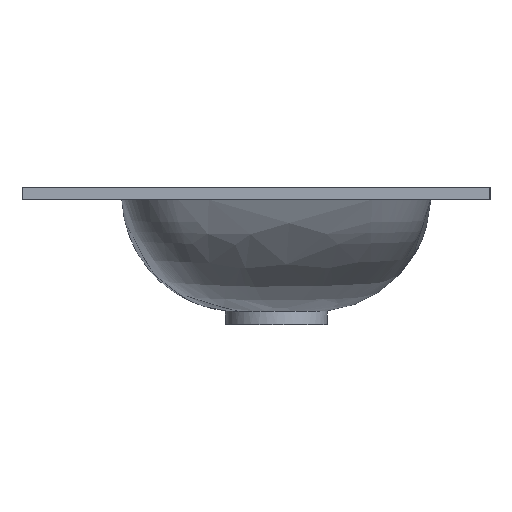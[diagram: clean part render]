
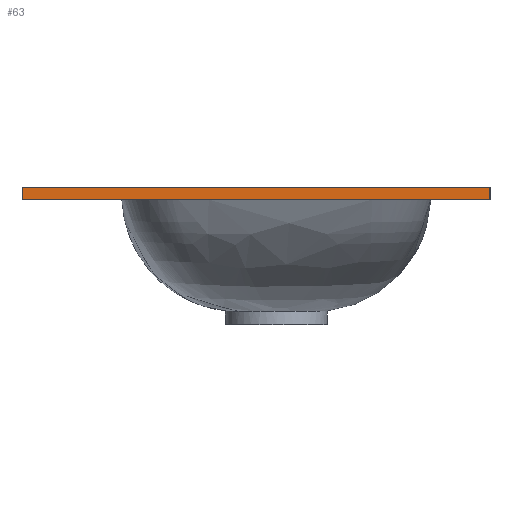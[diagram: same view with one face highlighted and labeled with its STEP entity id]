
A CAD part, left-side view. The second image highlights one B-rep face of the part: STEP entity #63.
In plain terms, the highlighted planar face has unit normal (-1, 0, 0).
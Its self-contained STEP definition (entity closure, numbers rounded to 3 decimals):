
#63=ADVANCED_FACE('',(#82),#75,.T.);
#75=PLANE('',#203);
#82=FACE_OUTER_BOUND('',#86,.T.);
#86=EDGE_LOOP('',(#109,#110,#111,#112));
#109=ORIENTED_EDGE('',*,*,#162,.F.);
#110=ORIENTED_EDGE('',*,*,#161,.F.);
#111=ORIENTED_EDGE('',*,*,#163,.T.);
#112=ORIENTED_EDGE('',*,*,#164,.T.);
#144=VERTEX_POINT('',#258);
#146=VERTEX_POINT('',#262);
#147=VERTEX_POINT('',#266);
#148=VERTEX_POINT('',#268);
#161=EDGE_CURVE('',#146,#144,#180,.T.);
#162=EDGE_CURVE('',#144,#147,#181,.T.);
#163=EDGE_CURVE('',#146,#148,#182,.T.);
#164=EDGE_CURVE('',#148,#147,#183,.T.);
#180=LINE('',#263,#192);
#181=LINE('',#265,#193);
#182=LINE('',#267,#194);
#183=LINE('',#269,#195);
#192=VECTOR('',#220,1.);
#193=VECTOR('',#223,1.);
#194=VECTOR('',#224,1.);
#195=VECTOR('',#225,1.);
#203=AXIS2_PLACEMENT_3D('',#270,#226,#227);
#220=DIRECTION('',(0.,0.,1.));
#223=DIRECTION('',(0.,-1.,0.));
#224=DIRECTION('',(0.,-1.,0.));
#225=DIRECTION('',(0.,0.,1.));
#226=DIRECTION('',(-1.,0.,0.));
#227=DIRECTION('',(0.,0.,1.));
#258=CARTESIAN_POINT('',(-301.,250.,0.));
#262=CARTESIAN_POINT('',(-301.,250.,-12.));
#263=CARTESIAN_POINT('',(-301.,250.,-150.));
#265=CARTESIAN_POINT('',(-301.,250.,0.));
#266=CARTESIAN_POINT('',(-301.,-210.,0.));
#267=CARTESIAN_POINT('',(-301.,0.,-12.));
#268=CARTESIAN_POINT('',(-301.,-210.,-12.));
#269=CARTESIAN_POINT('',(-301.,-210.,-150.));
#270=CARTESIAN_POINT('',(-301.,250.,-150.));
